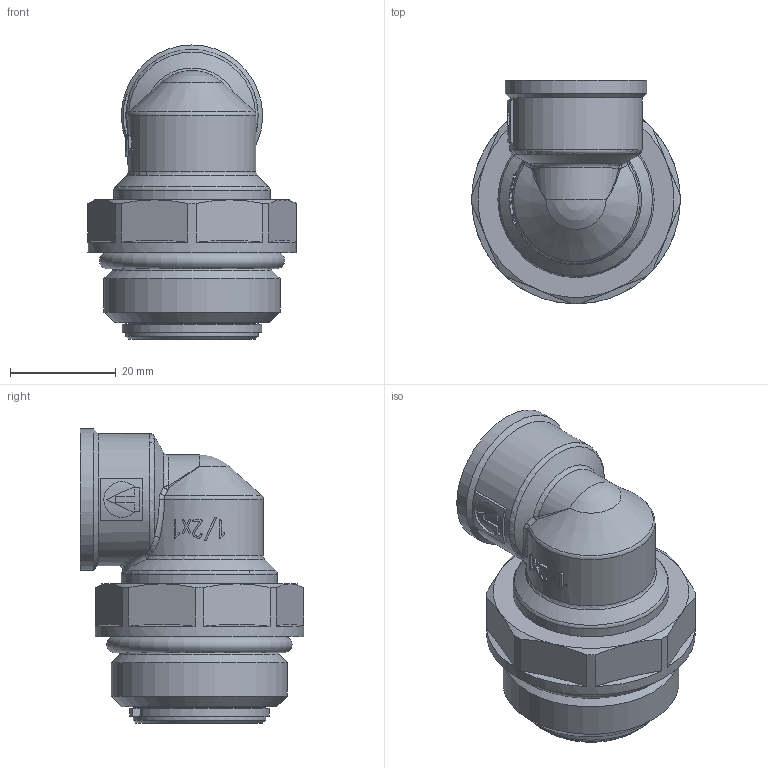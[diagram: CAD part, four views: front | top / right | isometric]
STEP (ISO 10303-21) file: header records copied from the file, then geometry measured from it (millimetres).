
FILE_DESCRIPTION(('STEP AP242'), '1');
FILE_NAME('VTc.631.N.0604', '', ('UNSPECIFIED'), ('UNSPECIFIED'), 'C3D Converter', 'C3D Toolkit', '');
FILE_SCHEMA(('AP242_MANAGED_MODEL_BASED_3D_ENGINEERING_MIM_LF { 1 0 10303 442 1 1 4 }'));
Length unit declared in the file: millimetre
Products named in the file (1): ВР.302635.094.000 СБ
Bounding box: 39.4 x 42.2 x 55.55 mm (x, y, z)
Volume: 22868.1 mm3; surface area: 11849.5 mm2
Topology: 1 solids, 1 shells, 221 faces, 579 edges, 369 vertices
Faces by surface type: plane 68, extrusion 66, cone 28, cylinder 26, bspline 20, torus 11, sphere 2
Full cylindrical faces by diameter (mm): 18.632 x1, 20 x1, 21.5 x1, 25 x3, 25.1 x1, 26.7 x1, 29.5 x1, 29.9 x1, 33.249 x1, 39.4 x1
Entity records: 10084 total; most frequent: CARTESIAN_POINT 5334, ORIENTED_EDGE 1100, DIRECTION 713, EDGE_CURVE 550, VERTEX_POINT 369, B_SPLINE_CURVE_WITH_KNOTS 292, EDGE_LOOP 261, AXIS2_PLACEMENT_3D 243
